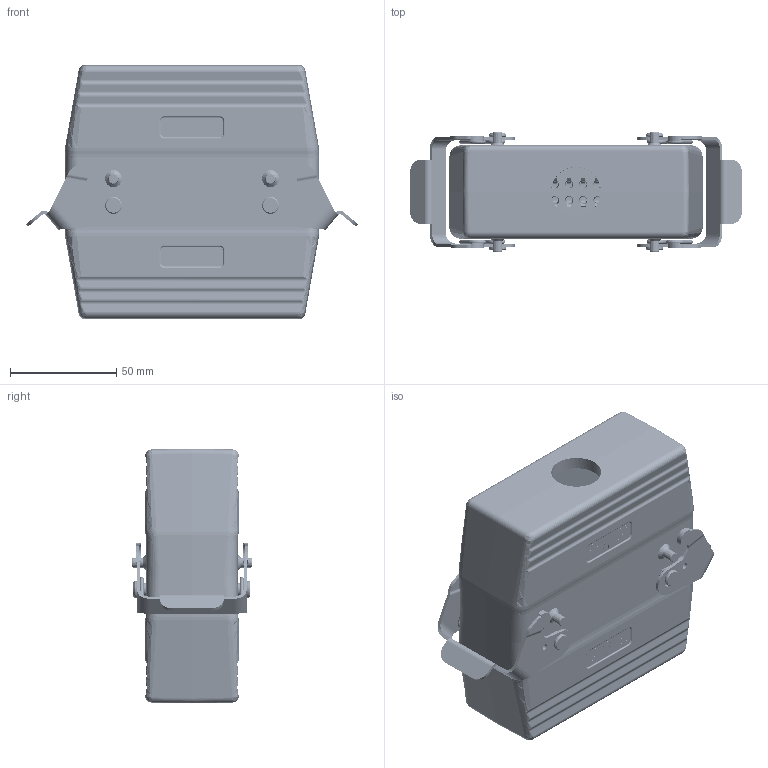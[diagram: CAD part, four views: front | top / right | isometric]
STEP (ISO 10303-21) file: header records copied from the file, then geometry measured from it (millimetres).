
FILE_DESCRIPTION (( 'STEP AP214' ), '1' );
FILE_NAME ('09024109225 HE、24针、对接底座、顶出25套件.STEP', '2024-04-30T08:54:22', ( 'L' ), ( '' ), 'SwSTEP 2.0', 'SolidWorks 2019', '' );
FILE_SCHEMA (( 'AUTOMOTIVE_DESIGN' ));
Length unit declared in the file: millimetre
Products named in the file (5): HE-024-F.stp; HE-024-M.stp; H24B-TG-M25.step; H24B-TBF-M25.step; 09024109225 HE、24针、对接底座、顶出25套件
Assembly tree (4 placements, depth 2):
  09024109225 HE、24针、对接底座、顶出25套件
    HE-024-M.stp
    HE-024-F.stp
    H24B-TG-M25.step
    H24B-TBF-M25.step
Bounding box: 156.49 x 56.4 x 120 mm (x, y, z)
Volume: 293063.7 mm3; surface area: 170504.2 mm2
Topology: 4 solids, 4 shells, 7242 faces, 19225 edges, 12072 vertices
Faces by surface type: plane 3419, cylinder 1595, bspline 1474, cone 434, torus 236, sphere 84
Entity records: 313797 total; most frequent: CARTESIAN_POINT 118857, ORIENTED_EDGE 38150, DIRECTION 31144, EDGE_CURVE 19075, VERTEX_POINT 12020, VECTOR 10846, LINE 10846, AXIS2_PLACEMENT_3D 10149
